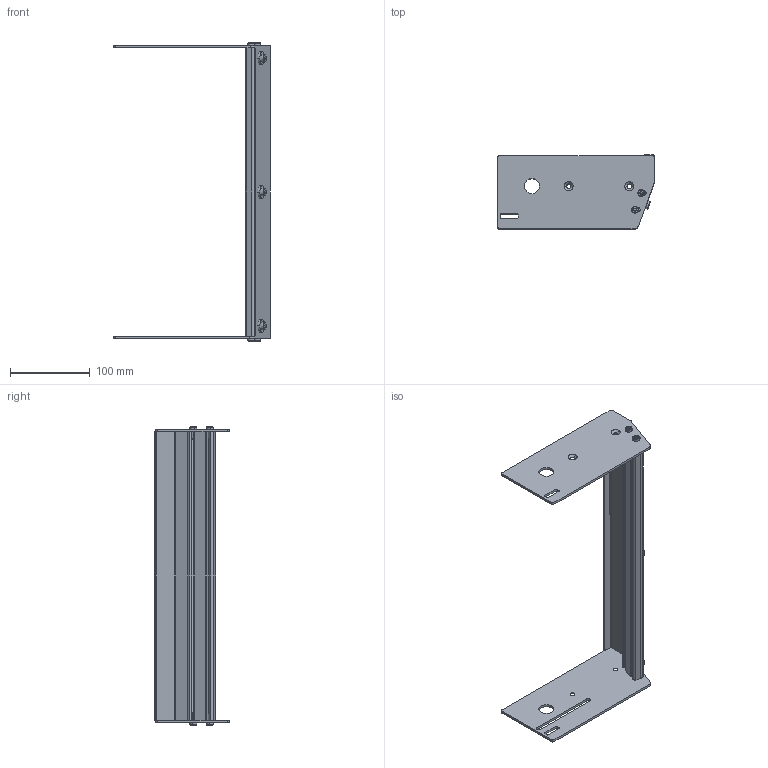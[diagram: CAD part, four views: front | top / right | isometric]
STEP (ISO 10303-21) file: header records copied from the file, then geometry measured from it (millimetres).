
FILE_DESCRIPTION((''),'2;1');
FILE_NAME('351199-14_ASM','2023-03-15T',('jenni.wallner'),(''),'PRO/ENGINEER BY PARAMETRIC TECHNOLOGY CORPORATION, 2012420','PRO/ENGINEER BY PARAMETRIC TECHNOLOGY CORPORATION, 2012420','');
FILE_SCHEMA(('CONFIG_CONTROL_DESIGN'));
Length unit declared in the file: inch
Products named in the file (10): 351200_DEFAULT_AS_MACHINED_; 9506XXM_950612M; 9505XXM_950512M; 351203-WW_351203-14; 605279P; 990603M; 351202-WW_351202-14; 351201; ASM0001_ASM; 351199-14_ASM
Assembly tree (18 placements, depth 3):
  351199-14_ASM
    ASM0001_ASM
      351200_DEFAULT_AS_MACHINED_
      9506XXM_950612M  x3
      9505XXM_950512M  x4
      351203-WW_351203-14
      605279P  x3
      990603M  x3
      351202-WW_351202-14
      351201
Bounding box: 196.11 x 93.08 x 374.69 mm (x, y, z)
Volume: 248313.9 mm3; surface area: 197216 mm2
Topology: 17 solids, 17 shells, 378 faces, 902 edges, 572 vertices
Faces by surface type: plane 170, cylinder 132, cone 76
Entity records: 7708 total; most frequent: CARTESIAN_POINT 1405, DIRECTION 1383, ORIENTED_EDGE 1206, EDGE_CURVE 603, AXIS2_PLACEMENT_3D 520, VERTEX_POINT 392, VECTOR 343, LINE 343
